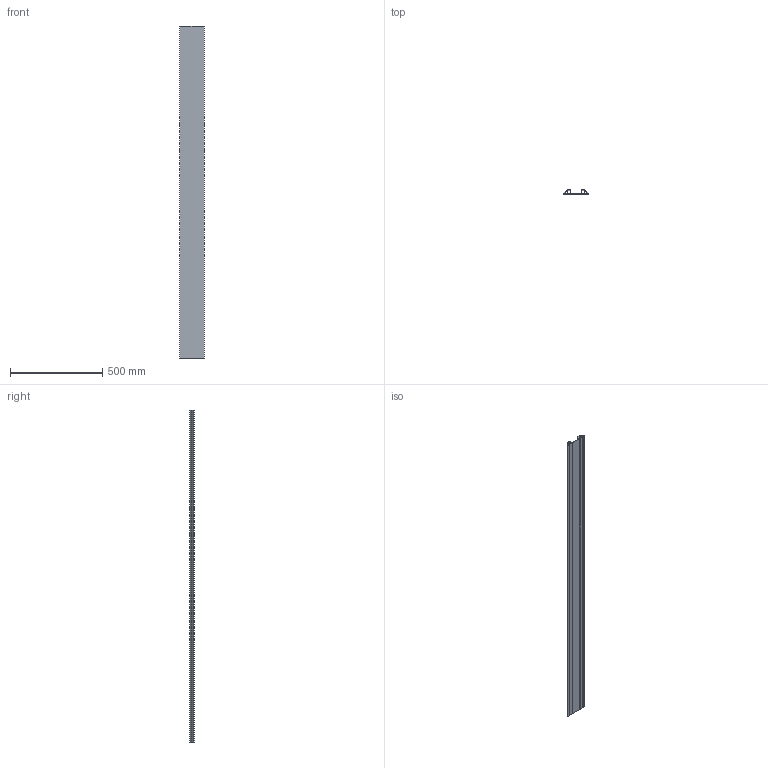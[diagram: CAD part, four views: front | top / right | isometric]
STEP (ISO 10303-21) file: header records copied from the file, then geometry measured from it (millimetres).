
FILE_DESCRIPTION(/* description */ ('STEP AP214'),/* implementation_level */ '2;1');
FILE_NAME(/* name */ ' 02082PO55.1800',/* time_stamp */ '2026-01-21T15:39:11+01:00',/* author */ ('License CC BY-ND 4.0'),/* organization */ ('CADENAS'),/* preprocessor_version */ 'ST-DEVELOPER v20',/* originating_system */ 'PARTsolutions',/* authorisation */ ' ');
FILE_SCHEMA (('AUTOMOTIVE_DESIGN {1 0 10303 214 3 1 1}'));
Length unit declared in the file: millimetre
Products named in the file (1):  02082PO55.1800
Bounding box: 135.5 x 22.7 x 1800 mm (x, y, z)
Volume: 1017347.4 mm3; surface area: 1000609.6 mm2
Topology: 1 solids, 1 shells, 92 faces, 270 edges, 180 vertices
Faces by surface type: plane 56, cylinder 36
Entity records: 3104 total; most frequent: CARTESIAN_POINT 543, ORIENTED_EDGE 540, DIRECTION 528, EDGE_CURVE 270, LINE 198, VECTOR 198, VERTEX_POINT 180, AXIS2_PLACEMENT_3D 165
